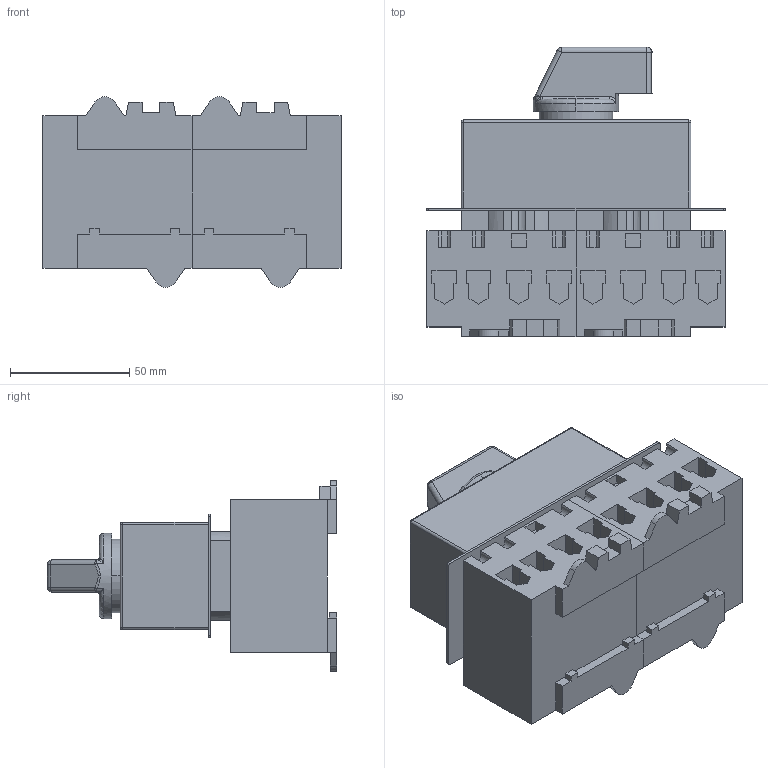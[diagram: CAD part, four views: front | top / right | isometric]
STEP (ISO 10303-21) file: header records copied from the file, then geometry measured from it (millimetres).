
FILE_DESCRIPTION (( 'STEP AP203' ), '1' );
FILE_NAME ('LTS63_80 SMAH1 U4.STEP', '2014-04-02T06:15:01', ( '' ), ( '' ), 'SwSTEP 2.0', 'SolidWorks 2014', '' );
FILE_SCHEMA (( 'CONFIG_CONTROL_DESIGN' ));
Length unit declared in the file: millimetre
Products named in the file (5): LTS63 VZV A4_Schaltkörper L; Abdeckung_Schlitzverteiler_Umschalter_LT; G2_64x64_nur griff; LTS63_80 SMAH1 U4; LTS63 VZV A4_Schaltkörper
Assembly tree (4 placements, depth 2):
  LTS63_80 SMAH1 U4
    LTS63 VZV A4_Schaltkörper
    LTS63 VZV A4_Schaltkörper L
    Abdeckung_Schlitzverteiler_Umschalter_LT
    G2_64x64_nur griff
Bounding box: 125.4 x 121.3 x 80 mm (x, y, z)
Volume: 514971.6 mm3; surface area: 90555.4 mm2
Topology: 4 solids, 4 shells, 484 faces, 1295 edges, 833 vertices
Faces by surface type: plane 322, cylinder 108, cone 32, sphere 10, bspline 8, torus 4
Entity records: 15723 total; most frequent: CARTESIAN_POINT 2939, ORIENTED_EDGE 2570, DIRECTION 2510, EDGE_CURVE 1285, LINE 990, VECTOR 990, VERTEX_POINT 833, AXIS2_PLACEMENT_3D 760
